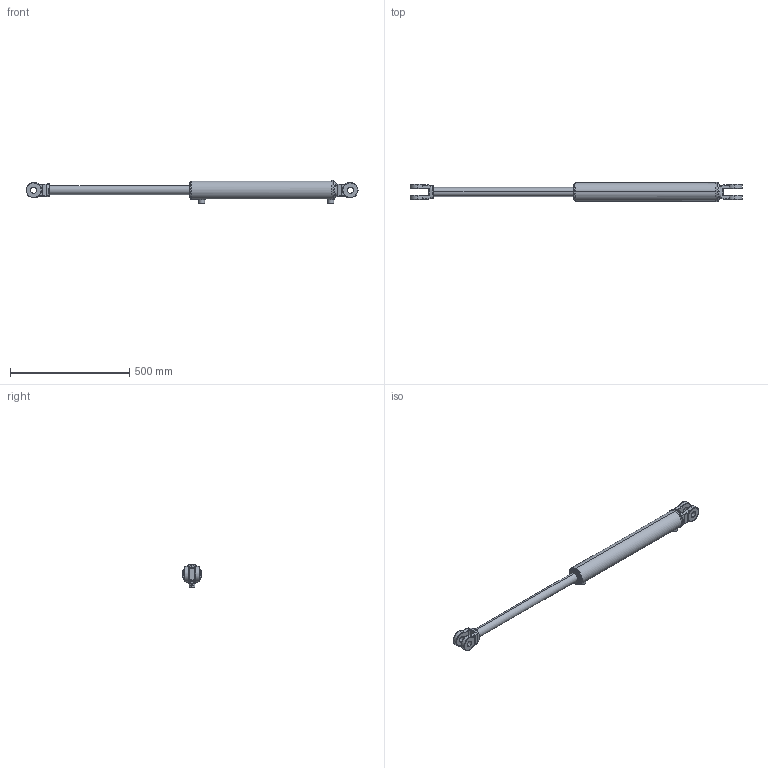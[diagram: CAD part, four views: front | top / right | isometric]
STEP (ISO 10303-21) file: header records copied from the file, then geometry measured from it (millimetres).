
FILE_DESCRIPTION (( 'STEP AP203' ), '1' );
FILE_NAME ('CL-CL250150x508 (20) extended.STEP', '2014-11-21T02:36:16', ( '' ), ( '' ), 'SwSTEP 2.0', 'SolidWorks 2014', '' );
FILE_SCHEMA (( 'CONFIG_CONTROL_DESIGN' ));
Length unit declared in the file: millimetre
Products named in the file (5): CL-CL250150x508 (20) body; 2.5 inch ext circlip; CL-CL250150x508 (20) BODY; SPARE 6_20-xx; CL-CL250150x508 (20) extended
Assembly tree (4 placements, depth 3):
  CL-CL250150x508 (20) extended
    CL-CL250150x508 (20) BODY
      CL-CL250150x508 (20) body
      2.5 inch ext circlip
    SPARE 6_20-xx
Bounding box: 1390.39 x 82.18 x 97.2 mm (x, y, z)
Volume: 3680937.9 mm3; surface area: 313253.2 mm2
Topology: 3 solids, 3 shells, 210 faces, 512 edges, 315 vertices
Faces by surface type: cylinder 91, bspline 59, plane 37, torus 15, cone 8
Entity records: 11387 total; most frequent: CARTESIAN_POINT 6222, ORIENTED_EDGE 1016, DIRECTION 943, EDGE_CURVE 508, AXIS2_PLACEMENT_3D 394, VERTEX_POINT 315, CIRCLE 235, EDGE_LOOP 233
